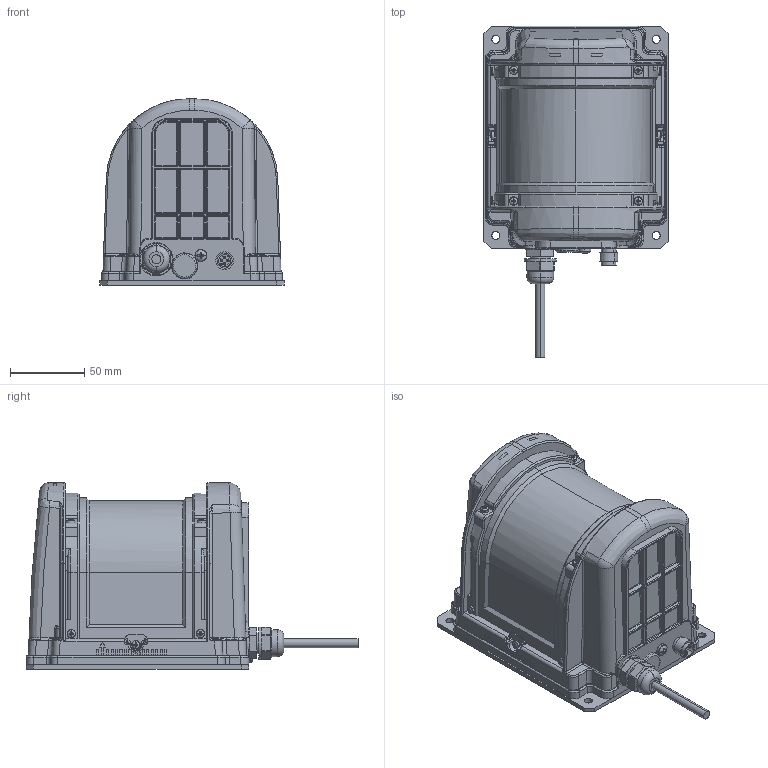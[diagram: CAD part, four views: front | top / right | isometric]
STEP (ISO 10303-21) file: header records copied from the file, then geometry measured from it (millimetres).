
FILE_DESCRIPTION (( 'STEP AP214' ), '1' );
FILE_NAME ('UXM-30 EHA 3D Data.STEP', '2017-11-17T01:29:30', ( 'hokuyo' ), ( '' ), 'SwSTEP 2.0', 'SolidWorks 2017', '' );
FILE_SCHEMA (( 'AUTOMOTIVE_DESIGN' ));
Length unit declared in the file: millimetre
Products named in the file (1): UXM-30 EHA  3D Data
Bounding box: 124 x 223.5 x 125.5 mm (x, y, z)
Surface area: 105729.8 mm2 (no closed solid volume)
Topology: 0 solids, 3 shells, 1876 faces, 4827 edges, 2980 vertices
Faces by surface type: plane 902, cylinder 503, bspline 179, cone 166, sphere 66, torus 60
Entity records: 76563 total; most frequent: CARTESIAN_POINT 24536, ORIENTED_EDGE 9506, DIRECTION 8831, EDGE_CURVE 4755, AXIS2_PLACEMENT_3D 3189, VERTEX_POINT 2964, VECTOR 2453, LINE 2453
